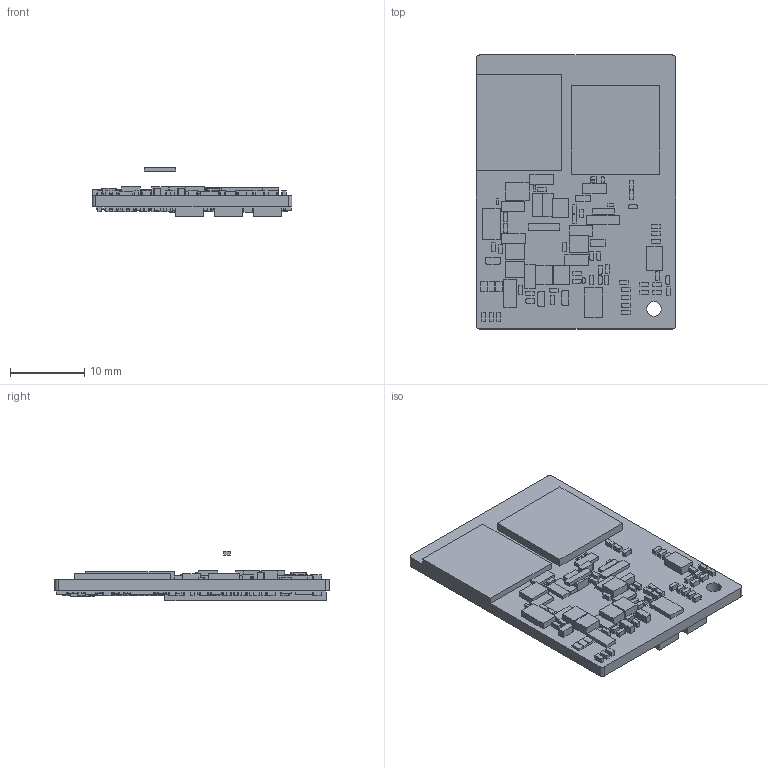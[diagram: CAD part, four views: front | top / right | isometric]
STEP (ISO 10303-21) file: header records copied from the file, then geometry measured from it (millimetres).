
FILE_DESCRIPTION((''),'2;1');
FILE_NAME('141708-IMX7_ASM','2017-05-05T',('Administrator'),(''),'PRO/ENGINEER BY PARAMETRIC TECHNOLOGY CORPORATION, 2007170','PRO/ENGINEER BY PARAMETRIC TECHNOLOGY CORPORATION, 2007170','');
FILE_SCHEMA(('CONFIG_CONTROL_DESIGN'));
Length unit declared in the file: inch
Products named in the file (25): BOARD_2; DF40C-70DP-0_4V-NOTOK_1; DF40C-100DP-0_4V-NOTOK_1; R0201_1; SC79_INFINEON_1; SJ_2-0402_1; BGA_12X12_0_4MM_488B_NOTOK_1; VFBGA_221_NOTOK_1; UCSP55M4C_1; LLP8_1; DFN2020-8S-NOTOK_1; SOT353-5_1; 7M-CRYSTAL_1; MM39SL_1; C0603_1; C0402K_1; L3230M_1; SOD-123_MINI-SMA_1; C0402_1; C0201_1; R0603_1; R0402_1; SJ_2-0603_1; 141708-IMX7-DUAL-UCOM-BOARD-REV_ASM; 141708-IMX7_ASM
Assembly tree (302 placements, depth 3):
  141708-IMX7_ASM
    141708-IMX7-DUAL-UCOM-BOARD-REV_ASM
      BOARD_2
      DF40C-70DP-0_4V-NOTOK_1
      DF40C-100DP-0_4V-NOTOK_1  x2
      R0201_1  x8
      SC79_INFINEON_1
      SJ_2-0402_1  x6
      BGA_12X12_0_4MM_488B_NOTOK_1
      VFBGA_221_NOTOK_1
      UCSP55M4C_1
      LLP8_1
      DFN2020-8S-NOTOK_1  x2
      SOT353-5_1
      7M-CRYSTAL_1
      MM39SL_1
      C0603_1  x20
      C0402K_1  x2
      L3230M_1  x6
      SOD-123_MINI-SMA_1
      C0402_1  x40
      C0201_1  x103
      R0603_1  x5
      R0402_1  x95
      SJ_2-0603_1
Bounding box: 27 x 37 x 6.63 mm (x, y, z)
Volume: 2328.7 mm3; surface area: 4920.2 mm2
Topology: 301 solids, 301 shells, 3756 faces, 9462 edges, 6308 vertices
Faces by surface type: plane 3750, cylinder 6
Entity records: 8789 total; most frequent: DIRECTION 2010, CARTESIAN_POINT 1454, AXIS2_PLACEMENT_3D 816, ORIENTED_EDGE 780, EDGE_CURVE 390, VECTOR 378, LINE 378, PRODUCT_DEFINITION_SHAPE 327
